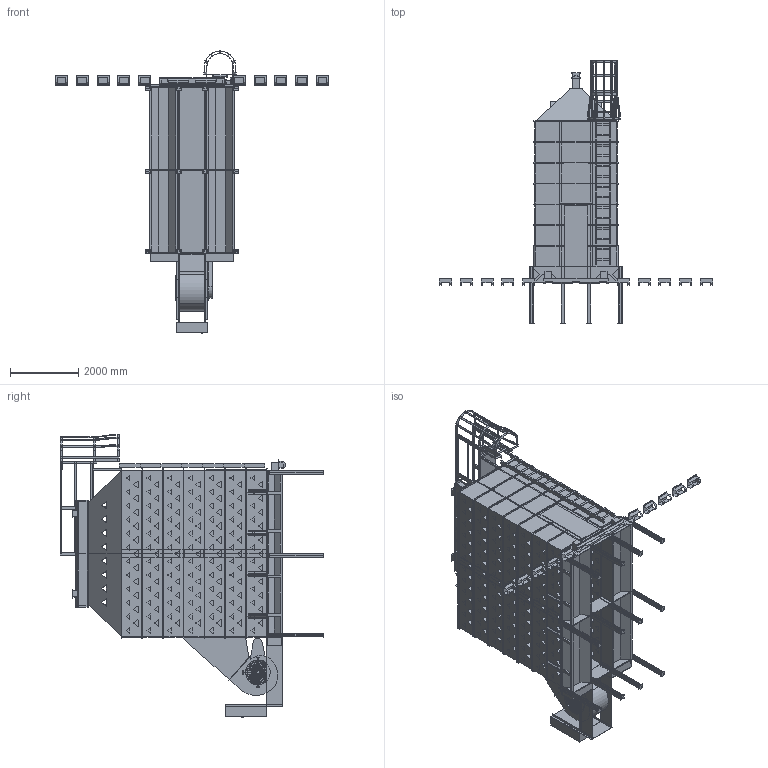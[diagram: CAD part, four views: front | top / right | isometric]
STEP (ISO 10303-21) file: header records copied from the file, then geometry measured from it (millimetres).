
FILE_DESCRIPTION(/* description */ ('PLAN AND ELEVATION VIEW FOR D1690 WITH ROOF & LEVEL AUGER'),/* implementation_level */ '2;1');
FILE_NAME(/* name */ 'C:\Engineering\Designs\Sales\Dryer\Workspaces\D16 All\D1690LA.stp',/* time_stamp */ '2025-01-06T16:43:41-06:00',/* author */ ('max.fleming'),/* organization */ (''),/* preprocessor_version */ 'ST-DEVELOPER v18.1',/* originating_system */ 'Autodesk Inventor 2022',/* authorisation */ '');
FILE_SCHEMA (('AUTOMOTIVE_DESIGN { 1 0 10303 214 3 1 1 }'));
Products named in the file (24): D1690LA; 16FT FRAME; 8FT LHRH FRAME; 16FT ROOF GF; 8FTRoof GF LHRH; 16FT BODY TIER; LH Body; RH Body; LH Body_MIR6; RH Body_MIR6; Outside Splice; Trans & Blower 16FT; Standard Size End Plenum Panels; Ladder 2' section; Stiffeners; Level Auger 16'; Level Auger; 8'' Intake; 6'' CROSS AUGER; Short Tongue; Leg Kit-02; 16FT CATWALK; Belt Shield; Screen Guard 16
Assembly tree (58 placements, depth 3):
  D1690LA
    16FT FRAME
      8FT LHRH FRAME  x2
    16FT ROOF GF
      8FTRoof GF LHRH  x2
    16FT BODY TIER  x7
      LH Body
      RH Body
      LH Body_MIR6
      RH Body_MIR6
      Outside Splice
    Leg Kit-02  x12
    Trans & Blower 16FT
    Standard Size End Plenum Panels  x11
    Stiffeners  x8
    Short Tongue
    16FT CATWALK
    Belt Shield
    Screen Guard 16  x2
  Ladder 2' section
  Level Auger 16'
    Level Auger  x2
  8'' Intake
  6'' CROSS AUGER
Bounding box: 8007.35 x 7729.94 x 8298.27 mm (x, y, z)
Volume: 39191824585.5 mm3; surface area: 538918374.8 mm2
Topology: 117 solids, 117 shells, 7457 faces, 20539 edges, 13458 vertices
Faces by surface type: plane 5662, cylinder 1767, bspline 26, torus 2
Full cylindrical faces by diameter (mm): 15.875 x48, 38.1 x1, 44.45 x16, 95.25 x2, 127 x2
Entity records: 101385 total; most frequent: CARTESIAN_POINT 17990, ORIENTED_EDGE 17582, DIRECTION 16323, EDGE_CURVE 8791, LINE 7307, VECTOR 7307, VERTEX_POINT 5759, AXIS2_PLACEMENT_3D 4508
